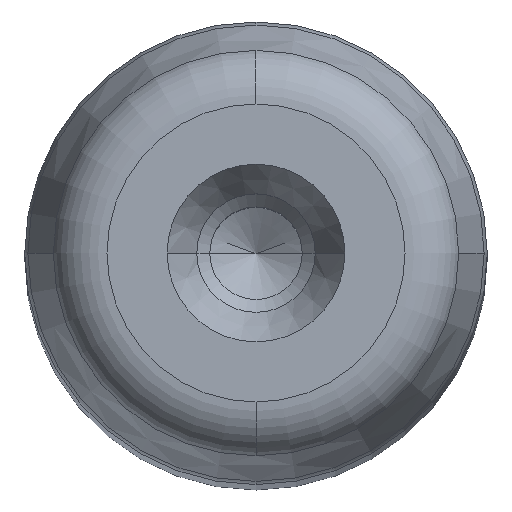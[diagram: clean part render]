
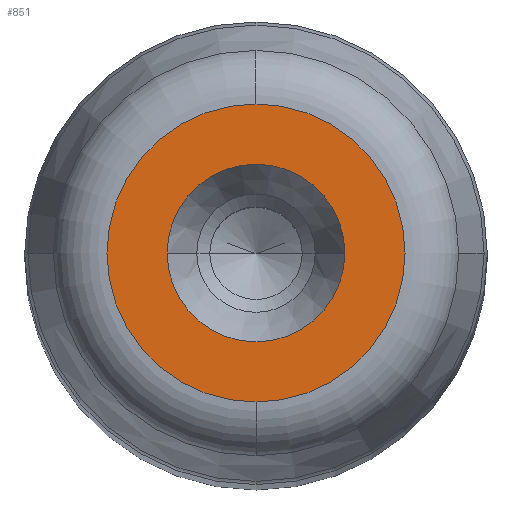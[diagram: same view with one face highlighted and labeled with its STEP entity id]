
A CAD part, top view. The second image highlights one B-rep face of the part: STEP entity #851.
In plain terms, the highlighted planar face has unit normal (0, 0, 1) as drawn and (0, 1, 0) by its records, which use the part's own axes.
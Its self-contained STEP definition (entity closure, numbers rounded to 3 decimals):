
#281=CARTESIAN_POINT('',(4.8,180.0,0.0));
#282=VERTEX_POINT('',#281);
#289=CARTESIAN_POINT('',(-4.8,180.0,0.));
#290=VERTEX_POINT('',#289);
#291=CARTESIAN_POINT('',(0.0,180.0,0.0));
#292=DIRECTION('',(0.0,1.0,0.0));
#293=DIRECTION('',(1.0,0.0,0.0));
#294=AXIS2_PLACEMENT_3D('',#291,#292,#293);
#295=CIRCLE('',#294,4.8);
#296=EDGE_CURVE('',#282,#290,#295,.T.);
#313=CARTESIAN_POINT('',(0.0,180.0,8.054));
#314=VERTEX_POINT('',#313);
#324=CARTESIAN_POINT('',(0.,180.0,-8.054));
#325=VERTEX_POINT('',#324);
#326=CARTESIAN_POINT('',(0.0,180.0,0.0));
#327=DIRECTION('',(0.0,1.0,0.0));
#328=DIRECTION('',(1.0,0.0,0.0));
#329=AXIS2_PLACEMENT_3D('',#326,#327,#328);
#330=CIRCLE('',#329,8.054);
#331=EDGE_CURVE('',#325,#314,#330,.T.);
#812=CARTESIAN_POINT('',(8.054,180.0,0.0));
#813=VERTEX_POINT('',#812);
#814=CARTESIAN_POINT('',(0.0,180.0,0.0));
#815=DIRECTION('',(0.0,1.0,0.0));
#816=DIRECTION('',(1.0,0.0,0.0));
#817=AXIS2_PLACEMENT_3D('',#814,#815,#816);
#818=CIRCLE('',#817,8.054);
#819=EDGE_CURVE('',#813,#325,#818,.T.);
#821=CARTESIAN_POINT('',(0.0,180.0,0.0));
#822=DIRECTION('',(0.0,1.0,0.0));
#823=DIRECTION('',(1.0,0.0,0.0));
#824=AXIS2_PLACEMENT_3D('',#821,#822,#823);
#825=CIRCLE('',#824,8.054);
#826=EDGE_CURVE('',#314,#813,#825,.T.);
#831=CARTESIAN_POINT('',(-8.86,180.0,-8.86));
#832=DIRECTION('',(0.0,1.0,0.0));
#833=DIRECTION('',(0.0,0.0,1.0));
#834=AXIS2_PLACEMENT_3D('',#831,#832,#833);
#835=PLANE('',#834);
#836=ORIENTED_EDGE('',*,*,#819,.T.);
#837=ORIENTED_EDGE('',*,*,#331,.T.);
#838=ORIENTED_EDGE('',*,*,#826,.T.);
#839=EDGE_LOOP('',(#836,#837,#838));
#840=FACE_OUTER_BOUND('',#839,.T.);
#841=ORIENTED_EDGE('',*,*,#296,.F.);
#842=CARTESIAN_POINT('',(0.0,180.0,0.0));
#843=DIRECTION('',(0.0,1.0,0.0));
#844=DIRECTION('',(1.0,0.0,0.0));
#845=AXIS2_PLACEMENT_3D('',#842,#843,#844);
#846=CIRCLE('',#845,4.8);
#847=EDGE_CURVE('',#290,#282,#846,.T.);
#848=ORIENTED_EDGE('',*,*,#847,.F.);
#849=EDGE_LOOP('',(#841,#848));
#850=FACE_BOUND('',#849,.T.);
#851=ADVANCED_FACE('',(#840,#850),#835,.T.);
